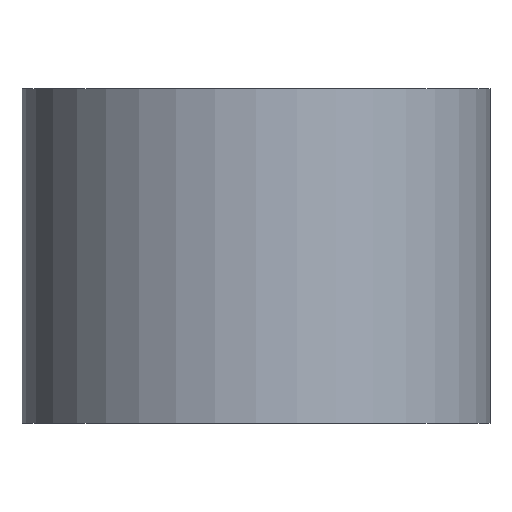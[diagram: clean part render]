
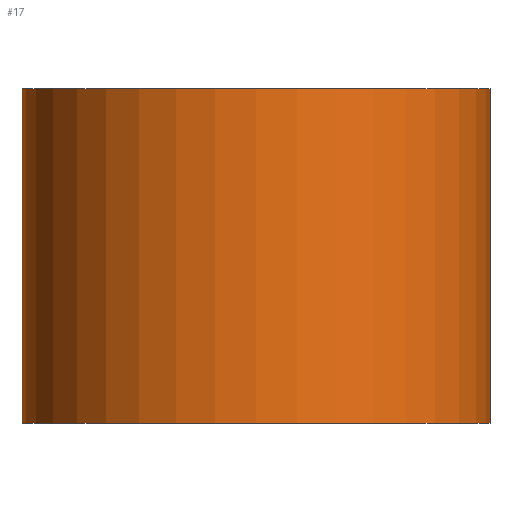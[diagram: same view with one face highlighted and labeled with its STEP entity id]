
A CAD part, front view. The second image highlights one B-rep face of the part: STEP entity #17.
In plain terms, the highlighted cylindrical face has radius 3.5 mm (diameter 7 mm), a full revolution.
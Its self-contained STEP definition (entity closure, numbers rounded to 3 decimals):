
#17 = ADVANCED_FACE('',(#18),#31,.T.);
#18 = FACE_BOUND('',#19,.T.);
#19 = EDGE_LOOP('',(#20,#54,#77,#104));
#20 = ORIENTED_EDGE('',*,*,#21,.F.);
#21 = EDGE_CURVE('',#22,#22,#24,.T.);
#22 = VERTEX_POINT('',#23);
#23 = CARTESIAN_POINT('',(-11.5,34.,286.));
#24 = SURFACE_CURVE('',#25,(#30,#42),.PCURVE_S1.);
#25 = CIRCLE('',#26,3.5);
#26 = AXIS2_PLACEMENT_3D('',#27,#28,#29);
#27 = CARTESIAN_POINT('',(-15.,34.,286.));
#28 = DIRECTION('',(0.,0.,1.));
#29 = DIRECTION('',(1.,0.,-0.));
#30 = PCURVE('',#31,#36);
#31 = CYLINDRICAL_SURFACE('',#32,3.5);
#32 = AXIS2_PLACEMENT_3D('',#33,#34,#35);
#33 = CARTESIAN_POINT('',(-15.,34.,281.));
#34 = DIRECTION('',(0.,0.,1.));
#35 = DIRECTION('',(1.,0.,-0.));
#36 = DEFINITIONAL_REPRESENTATION('',(#37),#41);
#37 = LINE('',#38,#39);
#38 = CARTESIAN_POINT('',(0.,5.));
#39 = VECTOR('',#40,1.);
#40 = DIRECTION('',(1.,0.));
#41 = ( GEOMETRIC_REPRESENTATION_CONTEXT(2) 
PARAMETRIC_REPRESENTATION_CONTEXT() REPRESENTATION_CONTEXT('2D SPACE',''
  ) );
#42 = PCURVE('',#43,#48);
#43 = PLANE('',#44);
#44 = AXIS2_PLACEMENT_3D('',#45,#46,#47);
#45 = CARTESIAN_POINT('',(-15.,34.,286.));
#46 = DIRECTION('',(0.,0.,1.));
#47 = DIRECTION('',(1.,0.,-0.));
#48 = DEFINITIONAL_REPRESENTATION('',(#49),#53);
#49 = CIRCLE('',#50,3.5);
#50 = AXIS2_PLACEMENT_2D('',#51,#52);
#51 = CARTESIAN_POINT('',(0.,0.));
#52 = DIRECTION('',(1.,0.));
#53 = ( GEOMETRIC_REPRESENTATION_CONTEXT(2) 
PARAMETRIC_REPRESENTATION_CONTEXT() REPRESENTATION_CONTEXT('2D SPACE',''
  ) );
#54 = ORIENTED_EDGE('',*,*,#55,.F.);
#55 = EDGE_CURVE('',#56,#22,#58,.T.);
#56 = VERTEX_POINT('',#57);
#57 = CARTESIAN_POINT('',(-11.5,34.,281.));
#58 = SEAM_CURVE('',#59,(#63,#70),.PCURVE_S1.);
#59 = LINE('',#60,#61);
#60 = CARTESIAN_POINT('',(-11.5,34.,281.));
#61 = VECTOR('',#62,1.);
#62 = DIRECTION('',(0.,0.,1.));
#63 = PCURVE('',#31,#64);
#64 = DEFINITIONAL_REPRESENTATION('',(#65),#69);
#65 = LINE('',#66,#67);
#66 = CARTESIAN_POINT('',(6.283,-0.));
#67 = VECTOR('',#68,1.);
#68 = DIRECTION('',(0.,1.));
#69 = ( GEOMETRIC_REPRESENTATION_CONTEXT(2) 
PARAMETRIC_REPRESENTATION_CONTEXT() REPRESENTATION_CONTEXT('2D SPACE',''
  ) );
#70 = PCURVE('',#31,#71);
#71 = DEFINITIONAL_REPRESENTATION('',(#72),#76);
#72 = LINE('',#73,#74);
#73 = CARTESIAN_POINT('',(0.,-0.));
#74 = VECTOR('',#75,1.);
#75 = DIRECTION('',(0.,1.));
#76 = ( GEOMETRIC_REPRESENTATION_CONTEXT(2) 
PARAMETRIC_REPRESENTATION_CONTEXT() REPRESENTATION_CONTEXT('2D SPACE',''
  ) );
#77 = ORIENTED_EDGE('',*,*,#78,.T.);
#78 = EDGE_CURVE('',#56,#56,#79,.T.);
#79 = SURFACE_CURVE('',#80,(#85,#92),.PCURVE_S1.);
#80 = CIRCLE('',#81,3.5);
#81 = AXIS2_PLACEMENT_3D('',#82,#83,#84);
#82 = CARTESIAN_POINT('',(-15.,34.,281.));
#83 = DIRECTION('',(0.,0.,1.));
#84 = DIRECTION('',(1.,0.,-0.));
#85 = PCURVE('',#31,#86);
#86 = DEFINITIONAL_REPRESENTATION('',(#87),#91);
#87 = LINE('',#88,#89);
#88 = CARTESIAN_POINT('',(0.,0.));
#89 = VECTOR('',#90,1.);
#90 = DIRECTION('',(1.,0.));
#91 = ( GEOMETRIC_REPRESENTATION_CONTEXT(2) 
PARAMETRIC_REPRESENTATION_CONTEXT() REPRESENTATION_CONTEXT('2D SPACE',''
  ) );
#92 = PCURVE('',#93,#98);
#93 = PLANE('',#94);
#94 = AXIS2_PLACEMENT_3D('',#95,#96,#97);
#95 = CARTESIAN_POINT('',(-15.,34.,281.));
#96 = DIRECTION('',(0.,0.,1.));
#97 = DIRECTION('',(1.,0.,-0.));
#98 = DEFINITIONAL_REPRESENTATION('',(#99),#103);
#99 = CIRCLE('',#100,3.5);
#100 = AXIS2_PLACEMENT_2D('',#101,#102);
#101 = CARTESIAN_POINT('',(0.,0.));
#102 = DIRECTION('',(1.,0.));
#103 = ( GEOMETRIC_REPRESENTATION_CONTEXT(2) 
PARAMETRIC_REPRESENTATION_CONTEXT() REPRESENTATION_CONTEXT('2D SPACE',''
  ) );
#104 = ORIENTED_EDGE('',*,*,#55,.T.);
